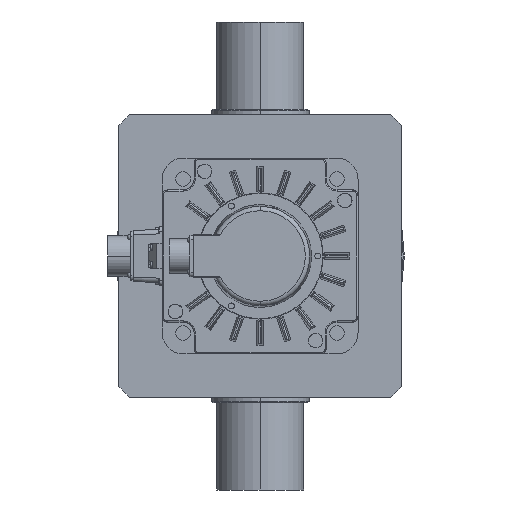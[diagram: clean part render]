
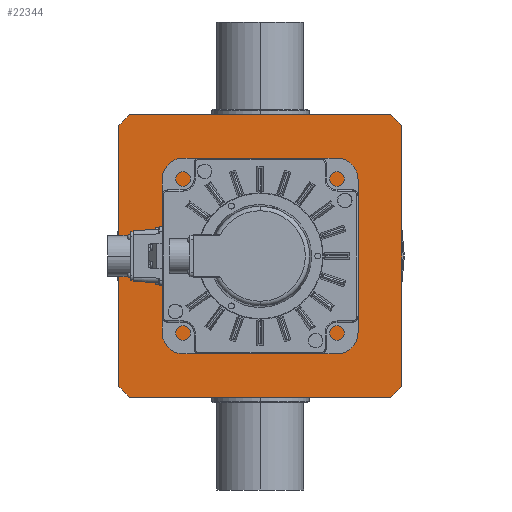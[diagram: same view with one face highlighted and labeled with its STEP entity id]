
A CAD part, left-side view. The second image highlights one B-rep face of the part: STEP entity #22344.
In plain terms, the highlighted planar face has unit normal (-1, 0, 0).
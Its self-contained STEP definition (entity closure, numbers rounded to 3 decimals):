
#282 = ORIENTED_EDGE ( 'NONE', *, *, #15666, .T. ) ;
#721 = CARTESIAN_POINT ( 'NONE',  ( -216., -119.769, -130. ) ) ;
#877 = DIRECTION ( 'NONE',  ( -1., 0., 0. ) ) ;
#928 = VERTEX_POINT ( 'NONE', #6652 ) ;
#953 = ORIENTED_EDGE ( 'NONE', *, *, #2554, .T. ) ;
#1061 = AXIS2_PLACEMENT_3D ( 'NONE', #9976, #877, #20978 ) ;
#1349 = LINE ( 'NONE', #1559, #10194 ) ;
#1397 = DIRECTION ( 'NONE',  ( 0., 0., 1. ) ) ;
#1484 = CIRCLE ( 'NONE', #5240, 35.019 ) ;
#1559 = CARTESIAN_POINT ( 'NONE',  ( -216., -119.769, -130. ) ) ;
#1632 = EDGE_CURVE ( 'NONE', #15319, #8963, #1484, .T. ) ;
#1707 = CARTESIAN_POINT ( 'NONE',  ( -216., 119.769, -130. ) ) ;
#1711 = LINE ( 'NONE', #9956, #14500 ) ;
#1742 = CARTESIAN_POINT ( 'NONE',  ( -216., 0., 35.019 ) ) ;
#2021 = PLANE ( 'NONE',  #11543 ) ;
#2302 = CARTESIAN_POINT ( 'NONE',  ( -216., -130., -119.769 ) ) ;
#2554 = EDGE_CURVE ( 'NONE', #18435, #928, #11182, .T. ) ;
#2939 = LINE ( 'NONE', #19455, #10613 ) ;
#2953 = CARTESIAN_POINT ( 'NONE',  ( -216., 130., 119.769 ) ) ;
#3149 = ORIENTED_EDGE ( 'NONE', *, *, #14898, .T. ) ;
#3451 = DIRECTION ( 'NONE',  ( -1., 0., 0. ) ) ;
#4858 = DIRECTION ( 'NONE',  ( 0., 0., 1. ) ) ;
#4877 = CARTESIAN_POINT ( 'NONE',  ( -216., 0., 0. ) ) ;
#4969 = AXIS2_PLACEMENT_3D ( 'NONE', #22362, #7277, #7349 ) ;
#5082 = FACE_OUTER_BOUND ( 'NONE', #19952, .T. ) ;
#5240 = AXIS2_PLACEMENT_3D ( 'NONE', #16464, #3451, #10743 ) ;
#5336 = CARTESIAN_POINT ( 'NONE',  ( -216., 119.769, 130. ) ) ;
#5765 = LINE ( 'NONE', #19121, #10006 ) ;
#6129 = VERTEX_POINT ( 'NONE', #1707 ) ;
#6652 = CARTESIAN_POINT ( 'NONE',  ( -216., -119.769, 130. ) ) ;
#7277 = DIRECTION ( 'NONE',  ( -1., 0., 0. ) ) ;
#7349 = DIRECTION ( 'NONE',  ( 0., 0., 1. ) ) ;
#8571 = DIRECTION ( 'NONE',  ( 0., 0., -1. ) ) ;
#8830 = DIRECTION ( 'NONE',  ( 0., -1., 0. ) ) ;
#8963 = VERTEX_POINT ( 'NONE', #9380 ) ;
#8979 = CARTESIAN_POINT ( 'NONE',  ( -216., 0., 0. ) ) ;
#9380 = CARTESIAN_POINT ( 'NONE',  ( -216., 0., -35.019 ) ) ;
#9855 = CIRCLE ( 'NONE', #1061, 35.019 ) ;
#9899 = FACE_BOUND ( 'NONE', #16610, .T. ) ;
#9956 = CARTESIAN_POINT ( 'NONE',  ( -216., -130., -119.769 ) ) ;
#9976 = CARTESIAN_POINT ( 'NONE',  ( -216., 0., 0. ) ) ;
#10006 = VECTOR ( 'NONE', #22775, 1000. ) ;
#10194 = VECTOR ( 'NONE', #8830, 1000. ) ;
#10479 = CARTESIAN_POINT ( 'NONE',  ( -216., -130., 119.769 ) ) ;
#10548 = ORIENTED_EDGE ( 'NONE', *, *, #18880, .T. ) ;
#10613 = VECTOR ( 'NONE', #8571, 1000. ) ;
#10743 = DIRECTION ( 'NONE',  ( 0., 0., 1. ) ) ;
#11182 = CIRCLE ( 'NONE', #4969, 176.762 ) ;
#11250 = EDGE_CURVE ( 'NONE', #23394, #16659, #12832, .T. ) ;
#11543 = AXIS2_PLACEMENT_3D ( 'NONE', #8979, #20016, #19242 ) ;
#12119 = CARTESIAN_POINT ( 'NONE',  ( -216., 0., 0. ) ) ;
#12692 = ORIENTED_EDGE ( 'NONE', *, *, #20439, .T. ) ;
#12832 = CIRCLE ( 'NONE', #17039, 176.762 ) ;
#13045 = DIRECTION ( 'NONE',  ( -1., 0., 0. ) ) ;
#13055 = EDGE_CURVE ( 'NONE', #6129, #20006, #1349, .T. ) ;
#13365 = ORIENTED_EDGE ( 'NONE', *, *, #14663, .F. ) ;
#13631 = ORIENTED_EDGE ( 'NONE', *, *, #11250, .T. ) ;
#14500 = VECTOR ( 'NONE', #16868, 1000. ) ;
#14663 = EDGE_CURVE ( 'NONE', #8963, #15319, #9855, .T. ) ;
#14898 = EDGE_CURVE ( 'NONE', #18905, #6129, #20388, .T. ) ;
#15319 = VERTEX_POINT ( 'NONE', #1742 ) ;
#15666 = EDGE_CURVE ( 'NONE', #20006, #19133, #21224, .T. ) ;
#16341 = AXIS2_PLACEMENT_3D ( 'NONE', #20395, #13045, #16702 ) ;
#16464 = CARTESIAN_POINT ( 'NONE',  ( -216., 0., 0. ) ) ;
#16610 = EDGE_LOOP ( 'NONE', ( #13365, #22090 ) ) ;
#16659 = VERTEX_POINT ( 'NONE', #2953 ) ;
#16702 = DIRECTION ( 'NONE',  ( 0., 0., 1. ) ) ;
#16868 = DIRECTION ( 'NONE',  ( 0., 0., 1. ) ) ;
#17039 = AXIS2_PLACEMENT_3D ( 'NONE', #4877, #19646, #1397 ) ;
#17058 = ORIENTED_EDGE ( 'NONE', *, *, #17757, .T. ) ;
#17757 = EDGE_CURVE ( 'NONE', #928, #23394, #5765, .T. ) ;
#18435 = VERTEX_POINT ( 'NONE', #10479 ) ;
#18880 = EDGE_CURVE ( 'NONE', #16659, #18905, #2939, .T. ) ;
#18905 = VERTEX_POINT ( 'NONE', #22887 ) ;
#19121 = CARTESIAN_POINT ( 'NONE',  ( -216., -119.769, 130. ) ) ;
#19133 = VERTEX_POINT ( 'NONE', #2302 ) ;
#19242 = DIRECTION ( 'NONE',  ( 0., 0., 1. ) ) ;
#19455 = CARTESIAN_POINT ( 'NONE',  ( -216., 130., -119.769 ) ) ;
#19569 = AXIS2_PLACEMENT_3D ( 'NONE', #12119, #22903, #4858 ) ;
#19646 = DIRECTION ( 'NONE',  ( -1., 0., 0. ) ) ;
#19952 = EDGE_LOOP ( 'NONE', ( #953, #17058, #13631, #10548, #3149, #21783, #282, #12692 ) ) ;
#20006 = VERTEX_POINT ( 'NONE', #721 ) ;
#20016 = DIRECTION ( 'NONE',  ( -1., 0., 0. ) ) ;
#20388 = CIRCLE ( 'NONE', #16341, 176.762 ) ;
#20395 = CARTESIAN_POINT ( 'NONE',  ( -216., 0., 0. ) ) ;
#20439 = EDGE_CURVE ( 'NONE', #19133, #18435, #1711, .T. ) ;
#20978 = DIRECTION ( 'NONE',  ( 0., 0., 1. ) ) ;
#21224 = CIRCLE ( 'NONE', #19569, 176.762 ) ;
#21783 = ORIENTED_EDGE ( 'NONE', *, *, #13055, .T. ) ;
#22090 = ORIENTED_EDGE ( 'NONE', *, *, #1632, .F. ) ;
#22344 = ADVANCED_FACE ( 'NONE', ( #5082, #9899 ), #2021, .T. ) ;
#22362 = CARTESIAN_POINT ( 'NONE',  ( -216., 0., 0. ) ) ;
#22775 = DIRECTION ( 'NONE',  ( 0., 1., 0. ) ) ;
#22887 = CARTESIAN_POINT ( 'NONE',  ( -216., 130., -119.769 ) ) ;
#22903 = DIRECTION ( 'NONE',  ( -1., 0., 0. ) ) ;
#23394 = VERTEX_POINT ( 'NONE', #5336 ) ;
